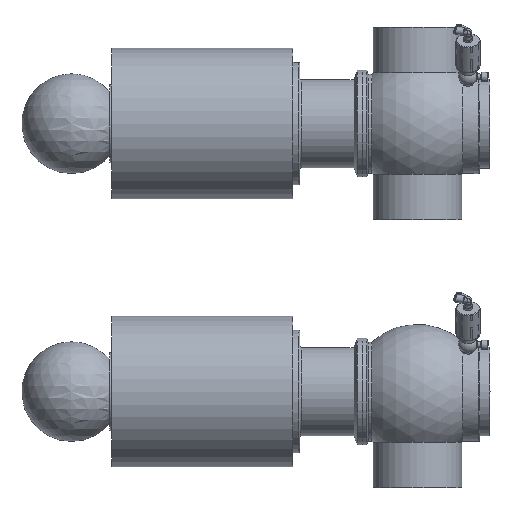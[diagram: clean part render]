
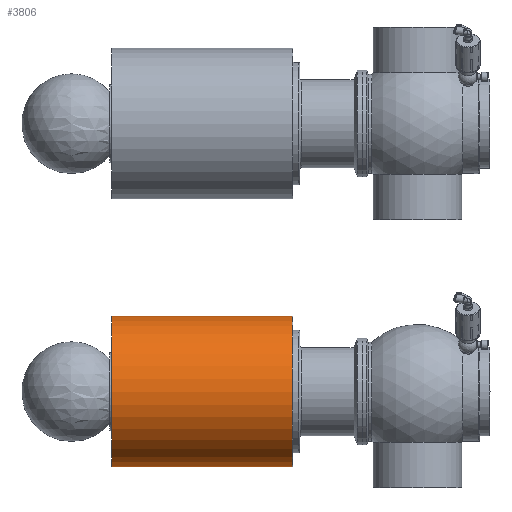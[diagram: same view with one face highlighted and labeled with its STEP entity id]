
A CAD part, left-side view. The second image highlights one B-rep face of the part: STEP entity #3806.
In plain terms, the highlighted cylindrical face has radius 109.5 mm (diameter 219 mm), a full revolution.
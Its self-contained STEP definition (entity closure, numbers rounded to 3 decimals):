
#402=CYLINDRICAL_SURFACE('',#4251,109.5);
#498=FACE_OUTER_BOUND('',#718,.T.);
#718=EDGE_LOOP('',(#2787,#2788,#2789,#2790,#2791,#2792,#2793));
#938=LINE('',#6181,#1129);
#1129=VECTOR('',#4906,109.5);
#1366=CIRCLE('',#4238,109.5);
#1367=CIRCLE('',#4239,109.5);
#1368=CIRCLE('',#4240,109.5);
#1373=CIRCLE('',#4249,109.5);
#1374=CIRCLE('',#4250,109.5);
#1665=VERTEX_POINT('',#6156);
#1666=VERTEX_POINT('',#6158);
#1667=VERTEX_POINT('',#6160);
#1672=VERTEX_POINT('',#6176);
#1673=VERTEX_POINT('',#6177);
#2105=EDGE_CURVE('',#1665,#1666,#1366,.T.);
#2106=EDGE_CURVE('',#1666,#1667,#1367,.T.);
#2107=EDGE_CURVE('',#1667,#1665,#1368,.T.);
#2113=EDGE_CURVE('',#1672,#1673,#1373,.T.);
#2114=EDGE_CURVE('',#1673,#1672,#1374,.T.);
#2115=EDGE_CURVE('',#1666,#1673,#938,.T.);
#2787=ORIENTED_EDGE('',*,*,#2107,.F.);
#2788=ORIENTED_EDGE('',*,*,#2106,.F.);
#2789=ORIENTED_EDGE('',*,*,#2115,.T.);
#2790=ORIENTED_EDGE('',*,*,#2114,.T.);
#2791=ORIENTED_EDGE('',*,*,#2113,.T.);
#2792=ORIENTED_EDGE('',*,*,#2115,.F.);
#2793=ORIENTED_EDGE('',*,*,#2105,.F.);
#3806=ADVANCED_FACE('',(#498),#402,.T.);
#4238=AXIS2_PLACEMENT_3D('',#6159,#4877,#4878);
#4239=AXIS2_PLACEMENT_3D('',#6161,#4879,#4880);
#4240=AXIS2_PLACEMENT_3D('',#6162,#4881,#4882);
#4249=AXIS2_PLACEMENT_3D('',#6178,#4900,#4901);
#4250=AXIS2_PLACEMENT_3D('',#6179,#4902,#4903);
#4251=AXIS2_PLACEMENT_3D('',#6180,#4904,#4905);
#4877=DIRECTION('center_axis',(0.,-1.,0.));
#4878=DIRECTION('ref_axis',(1.,0.,0.));
#4879=DIRECTION('center_axis',(0.,-1.,0.));
#4880=DIRECTION('ref_axis',(1.,0.,0.));
#4881=DIRECTION('center_axis',(0.,-1.,0.));
#4882=DIRECTION('ref_axis',(1.,0.,0.));
#4900=DIRECTION('center_axis',(0.,-1.,0.));
#4901=DIRECTION('ref_axis',(1.,0.,0.));
#4902=DIRECTION('center_axis',(0.,-1.,0.));
#4903=DIRECTION('ref_axis',(1.,0.,0.));
#4904=DIRECTION('center_axis',(0.,-1.,0.));
#4905=DIRECTION('ref_axis',(1.,0.,0.));
#4906=DIRECTION('',(0.,1.,0.));
#6156=CARTESIAN_POINT('',(0.,1.,109.5));
#6158=CARTESIAN_POINT('',(-109.5,1.,0.));
#6159=CARTESIAN_POINT('Origin',(0.,1.,0.));
#6160=CARTESIAN_POINT('',(109.5,1.,0.));
#6161=CARTESIAN_POINT('Origin',(0.,1.,0.));
#6162=CARTESIAN_POINT('Origin',(0.,1.,0.));
#6176=CARTESIAN_POINT('',(109.5,263.5,0.));
#6177=CARTESIAN_POINT('',(-109.5,263.5,0.));
#6178=CARTESIAN_POINT('Origin',(0.,263.5,0.));
#6179=CARTESIAN_POINT('Origin',(0.,263.5,0.));
#6180=CARTESIAN_POINT('Origin',(0.,132.25,0.));
#6181=CARTESIAN_POINT('',(-109.5,132.25,0.));
